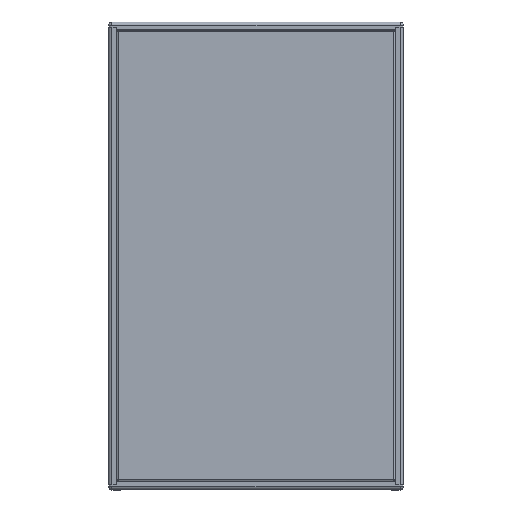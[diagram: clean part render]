
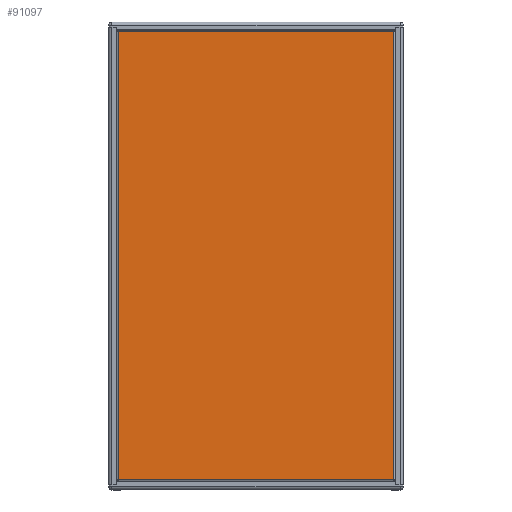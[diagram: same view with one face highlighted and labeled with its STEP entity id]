
A CAD part, top view. The second image highlights one B-rep face of the part: STEP entity #91097.
In plain terms, the highlighted planar face has unit normal (0, 0, 1) as drawn and (0, 1, 0) by its records, which use the part's own axes.
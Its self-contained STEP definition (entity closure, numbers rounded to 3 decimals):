
#567 = CARTESIAN_POINT ( 'NONE',  ( 3., 2., -885. ) ) ;
#593 = CARTESIAN_POINT ( 'NONE',  ( 545., 2., -3. ) ) ;
#627 = CARTESIAN_POINT ( 'NONE',  ( 545., 2., -885. ) ) ;
#637 = CARTESIAN_POINT ( 'NONE',  ( 3., 2., -3. ) ) ;
#6400 = CARTESIAN_POINT ( 'NONE',  ( 2.707, 2., -3. ) ) ;
#6412 = DIRECTION ( 'NONE',  ( 1., 0., 0. ) ) ;
#6469 = CARTESIAN_POINT ( 'NONE',  ( 545., 2., -2.707 ) ) ;
#6470 = DIRECTION ( 'NONE',  ( 0., 0., -1. ) ) ;
#14747 = AXIS2_PLACEMENT_3D ( 'NONE', #72950, #72959, #72965 ) ;
#16395 = EDGE_CURVE ( 'NONE', #88834, #88877, #30232, .T. ) ;
#16423 = EDGE_CURVE ( 'NONE', #88877, #88847, #30312, .T. ) ;
#24717 = EDGE_CURVE ( 'NONE', #88847, #88840, #39294, .T. ) ;
#24737 = EDGE_CURVE ( 'NONE', #88840, #88834, #39268, .T. ) ;
#30185 = VECTOR ( 'NONE', #59621, 1000. ) ;
#30232 = LINE ( 'NONE', #59560, #30185 ) ;
#30312 = LINE ( 'NONE', #59553, #30421 ) ;
#30421 = VECTOR ( 'NONE', #59587, 1000. ) ;
#39268 = LINE ( 'NONE', #6469, #39289 ) ;
#39282 = VECTOR ( 'NONE', #6412, 1000. ) ;
#39289 = VECTOR ( 'NONE', #6470, 1000. ) ;
#39294 = LINE ( 'NONE', #6400, #39282 ) ;
#48225 = ORIENTED_EDGE ( 'NONE', *, *, #24737, .T. ) ;
#48234 = ORIENTED_EDGE ( 'NONE', *, *, #16395, .T. ) ;
#48260 = ORIENTED_EDGE ( 'NONE', *, *, #16423, .T. ) ;
#48293 = ORIENTED_EDGE ( 'NONE', *, *, #24717, .T. ) ;
#59553 = CARTESIAN_POINT ( 'NONE',  ( 3., 2., -885.293 ) ) ;
#59560 = CARTESIAN_POINT ( 'NONE',  ( 545.293, 2., -885. ) ) ;
#59587 = DIRECTION ( 'NONE',  ( 0., 0., 1. ) ) ;
#59621 = DIRECTION ( 'NONE',  ( -1., 0., 0. ) ) ;
#65692 = FACE_OUTER_BOUND ( 'NONE', #94551, .T. ) ;
#72950 = CARTESIAN_POINT ( 'NONE',  ( 0., 2., -888. ) ) ;
#72951 = PLANE ( 'NONE',  #14747 ) ;
#72959 = DIRECTION ( 'NONE',  ( 0., -1., 0. ) ) ;
#72965 = DIRECTION ( 'NONE',  ( 0., 0., -1. ) ) ;
#88834 = VERTEX_POINT ( 'NONE', #627 ) ;
#88840 = VERTEX_POINT ( 'NONE', #593 ) ;
#88847 = VERTEX_POINT ( 'NONE', #637 ) ;
#88877 = VERTEX_POINT ( 'NONE', #567 ) ;
#91097 = ADVANCED_FACE ( 'NONE', ( #65692 ), #72951, .F. ) ;
#94551 = EDGE_LOOP ( 'NONE', ( #48234, #48260, #48293, #48225 ) ) ;
